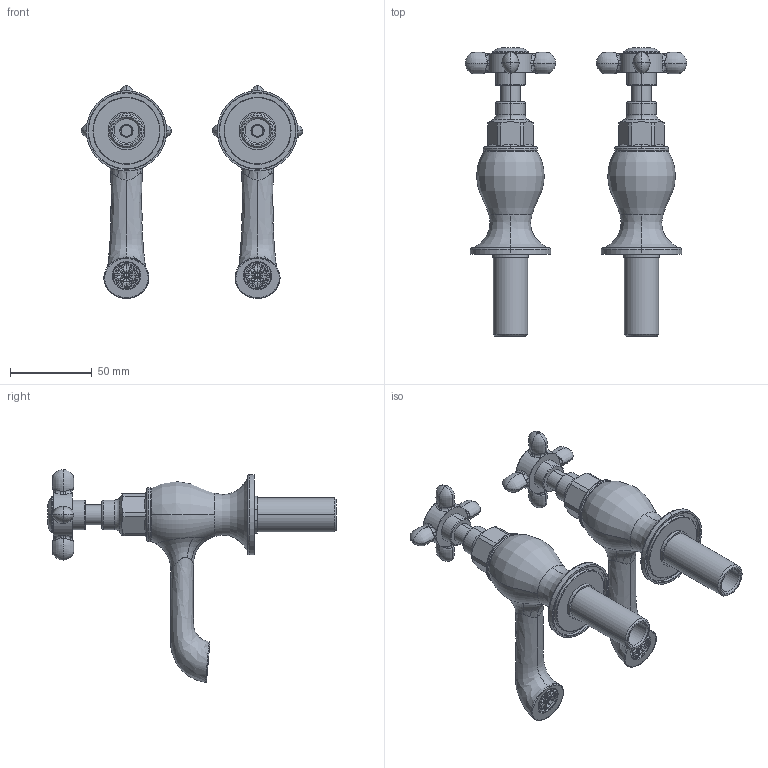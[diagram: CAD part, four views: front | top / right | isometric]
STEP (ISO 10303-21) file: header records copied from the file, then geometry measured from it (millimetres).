
FILE_DESCRIPTION(('FreeCAD Model'),'2;1');
FILE_NAME('Open CASCADE Shape Model','2025-05-30T11:57:10',('Author'),( ''),'Open CASCADE STEP processor 7.8','FreeCAD','Unknown');
FILE_SCHEMA(('AUTOMOTIVE_DESIGN { 1 0 10303 214 1 1 1 1 }'));
Length unit declared in the file: millimetre
Products named in the file (19): 1153033_ASM; 1153033-012_AF0; 1153003-162_AF0; 1153003-113_AF0; 1153033-172_AF0; JQ-18X2_AF0; JQ-8X1_8_AF0; 1153003-552_AF0; 1153003-202_AF0; 8027001-402_AF0; 1153033-012; 1153003-162; 1153003-113; 1153033-172; JQ-18X2; JQ-8X1_8; 1153003-552; 1153003-203; 8027001-402
Assembly tree (18 placements, depth 2):
  1153033_ASM
    1153033-012_AF0
    1153003-162_AF0
    1153003-113_AF0
    1153033-172_AF0
    JQ-18X2_AF0
    JQ-8X1_8_AF0
    1153003-552_AF0
    1153003-202_AF0
    8027001-402_AF0
    1153033-012
    1153003-162
    1153003-113
    1153033-172
    JQ-18X2
    JQ-8X1_8
    1153003-552
    1153003-203
    8027001-402
Bounding box: 135.17 x 175.94 x 129.83 mm (x, y, z)
Volume: 134294 mm3; surface area: 98196.5 mm2
Topology: 18 solids, 20 shells, 1090 faces, 2898 edges, 1810 vertices
Faces by surface type: plane 346, cylinder 282, bspline 252, torus 104, cone 86, revolution 20
Entity records: 76908 total; most frequent: CARTESIAN_POINT 50773, ORIENTED_EDGE 5732, DIRECTION 4938, EDGE_CURVE 2866, AXIS2_PLACEMENT_3D 1977, VERTEX_POINT 1810, FACE_BOUND 1172, EDGE_LOOP 1172
